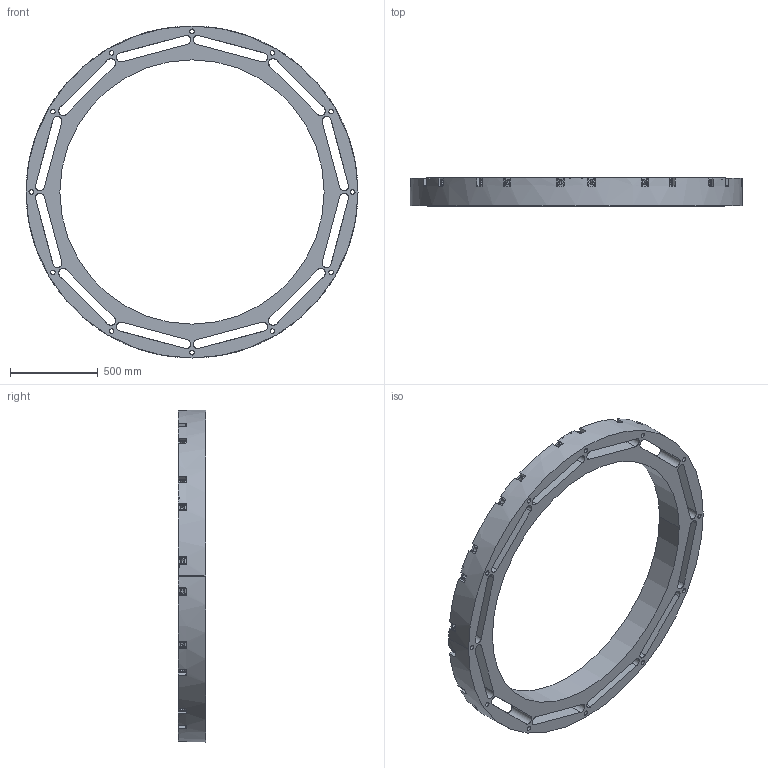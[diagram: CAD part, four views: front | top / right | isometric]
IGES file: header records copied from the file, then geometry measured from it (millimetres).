
Start section:  PTC IGES file: coil_mount_ring.igs
Global section: file name: coil_mount_ring.igs; native system: Pro/ENGINEER by Parametric Technology Corporation; preprocessor: 1999260; author: oshatz; organization: Unknown; date: 000922.101537; units: millimetre
Bounding box: 1890 x 158 x 1890 mm (x, y, z)
Surface area: 5284263.4 mm2 (no closed solid volume)
Topology: 0 solids, 0 shells, 606 faces, 3124 edges, 3124 vertices
Faces by surface type: revolution 346, bspline 260
